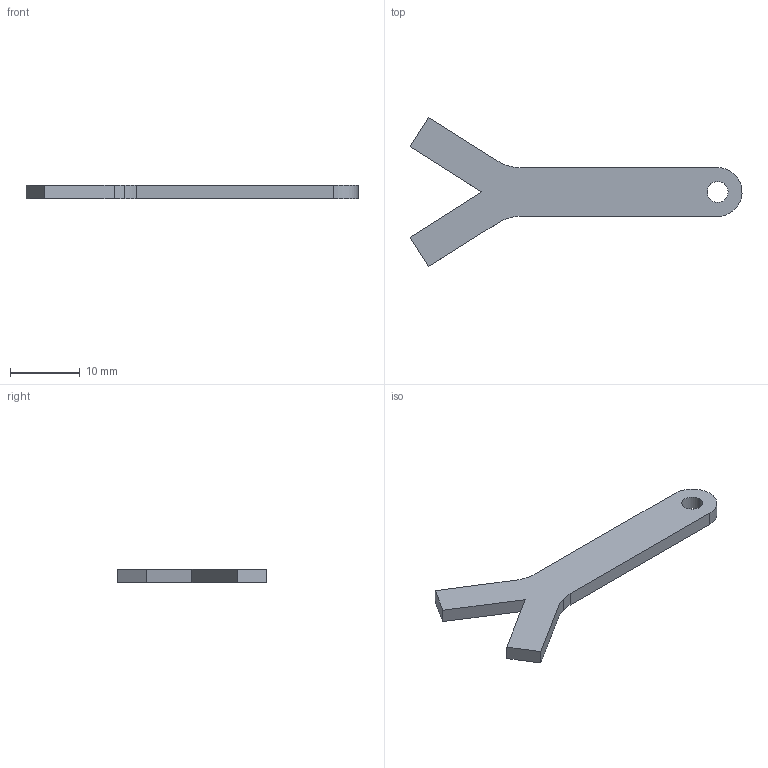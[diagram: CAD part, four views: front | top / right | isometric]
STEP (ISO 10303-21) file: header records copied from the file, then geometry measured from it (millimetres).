
FILE_DESCRIPTION(('STEP AP214'),'1');
FILE_NAME('tmp0.step','2025-08-08T10:06:41',(' '),(' '),'Spatial InterOp 3D',' ',' ');
FILE_SCHEMA(('AUTOMOTIVE_DESIGN { 1 0 10303 214 1 1 1 1 }'));
Length unit declared in the file: millimetre
Products named in the file (1): 1
Bounding box: 47.64 x 21.41 x 2 mm (x, y, z)
Volume: 729.8 mm3; surface area: 1012.9 mm2
Topology: 1 solids, 1 shells, 18 faces, 48 edges, 32 vertices
Faces by surface type: plane 10, cylinder 8
Entity records: 597 total; most frequent: DIRECTION 102, CARTESIAN_POINT 99, ORIENTED_EDGE 96, EDGE_CURVE 48, AXIS2_PLACEMENT_3D 35, VERTEX_POINT 32, LINE 32, VECTOR 32
